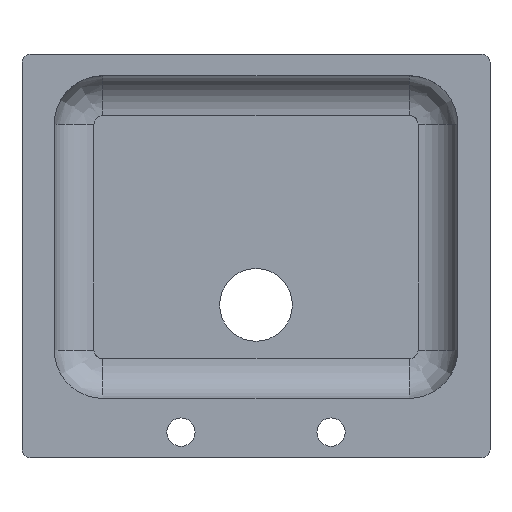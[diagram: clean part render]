
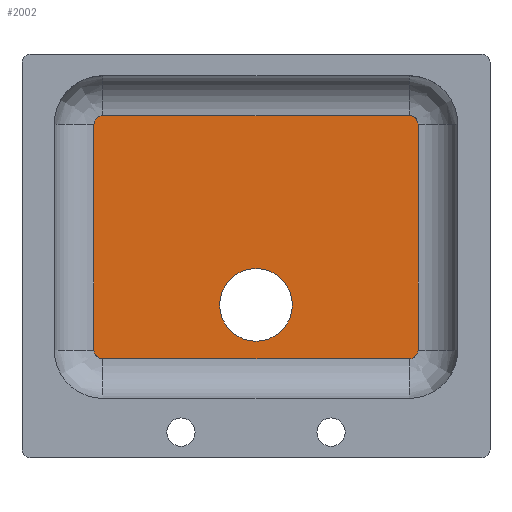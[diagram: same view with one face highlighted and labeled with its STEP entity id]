
A CAD part, top view. The second image highlights one B-rep face of the part: STEP entity #2002.
In plain terms, the highlighted planar face has unit normal (0, 0, 1).
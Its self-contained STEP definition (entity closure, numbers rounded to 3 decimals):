
#1850=CARTESIAN_POINT('Vertex',(45.,-60.3,-192.1)) ;
#1853=CARTESIAN_POINT('Axis2P3D Location',(0.,-60.3,-192.1)) ;
#1857=CARTESIAN_POINT('Vertex',(-45.,-60.3,-192.1)) ;
#1872=CARTESIAN_POINT('Axis2P3D Location',(0.,-60.3,-192.1)) ;
#1915=CARTESIAN_POINT('Axis2P3D Location',(0.,23.5,-192.1)) ;
#1921=CARTESIAN_POINT('Control Point',(190.,-127.3,-192.1)) ;
#1922=CARTESIAN_POINT('Control Point',(193.393,-127.3,-192.1)) ;
#1923=CARTESIAN_POINT('Control Point',(196.789,-125.971,-192.1)) ;
#1924=CARTESIAN_POINT('Control Point',(199.471,-123.289,-192.1)) ;
#1925=CARTESIAN_POINT('Control Point',(200.8,-119.893,-192.1)) ;
#1926=CARTESIAN_POINT('Control Point',(200.8,-116.5,-192.1)) ;
#1927=CARTESIAN_POINT('Vertex',(190.,-127.3,-192.1)) ;
#1929=CARTESIAN_POINT('Vertex',(200.8,-116.5,-192.1)) ;
#1932=CARTESIAN_POINT('Line Origine',(200.8,23.5,-192.1)) ;
#1936=CARTESIAN_POINT('Vertex',(200.8,163.5,-192.1)) ;
#1940=CARTESIAN_POINT('Control Point',(200.8,163.5,-192.1)) ;
#1941=CARTESIAN_POINT('Control Point',(200.8,166.893,-192.1)) ;
#1942=CARTESIAN_POINT('Control Point',(199.471,170.289,-192.1)) ;
#1943=CARTESIAN_POINT('Control Point',(196.789,172.971,-192.1)) ;
#1944=CARTESIAN_POINT('Control Point',(193.393,174.3,-192.1)) ;
#1945=CARTESIAN_POINT('Control Point',(190.,174.3,-192.1)) ;
#1946=CARTESIAN_POINT('Vertex',(190.,174.3,-192.1)) ;
#1949=CARTESIAN_POINT('Line Origine',(0.,174.3,-192.1)) ;
#1953=CARTESIAN_POINT('Vertex',(-190.,174.3,-192.1)) ;
#1957=CARTESIAN_POINT('Control Point',(-190.,174.3,-192.1)) ;
#1958=CARTESIAN_POINT('Control Point',(-193.393,174.3,-192.1)) ;
#1959=CARTESIAN_POINT('Control Point',(-196.789,172.971,-192.1)) ;
#1960=CARTESIAN_POINT('Control Point',(-199.471,170.289,-192.1)) ;
#1961=CARTESIAN_POINT('Control Point',(-200.8,166.893,-192.1)) ;
#1962=CARTESIAN_POINT('Control Point',(-200.8,163.5,-192.1)) ;
#1963=CARTESIAN_POINT('Vertex',(-200.8,163.5,-192.1)) ;
#1966=CARTESIAN_POINT('Line Origine',(-200.8,23.5,-192.1)) ;
#1970=CARTESIAN_POINT('Vertex',(-200.8,-116.5,-192.1)) ;
#1974=CARTESIAN_POINT('Control Point',(-200.8,-116.5,-192.1)) ;
#1975=CARTESIAN_POINT('Control Point',(-200.8,-119.893,-192.1)) ;
#1976=CARTESIAN_POINT('Control Point',(-199.471,-123.289,-192.1)) ;
#1977=CARTESIAN_POINT('Control Point',(-196.789,-125.971,-192.1)) ;
#1978=CARTESIAN_POINT('Control Point',(-193.393,-127.3,-192.1)) ;
#1979=CARTESIAN_POINT('Control Point',(-190.,-127.3,-192.1)) ;
#1980=CARTESIAN_POINT('Vertex',(-190.,-127.3,-192.1)) ;
#1983=CARTESIAN_POINT('Line Origine',(0.,-127.3,-192.1)) ;
#1854=DIRECTION('Axis2P3D Direction',(0.,0.,1.)) ;
#1873=DIRECTION('Axis2P3D Direction',(0.,0.,1.)) ;
#1916=DIRECTION('Axis2P3D Direction',(0.,0.,1.)) ;
#1917=DIRECTION('Axis2P3D XDirection',(1.,0.,0.)) ;
#1933=DIRECTION('Vector Direction',(0.,1.,0.)) ;
#1950=DIRECTION('Vector Direction',(1.,0.,0.)) ;
#1967=DIRECTION('Vector Direction',(0.,1.,0.)) ;
#1984=DIRECTION('Vector Direction',(1.,0.,0.)) ;
#1855=AXIS2_PLACEMENT_3D('Circle Axis2P3D',#1853,#1854,$) ;
#1874=AXIS2_PLACEMENT_3D('Circle Axis2P3D',#1872,#1873,$) ;
#1918=AXIS2_PLACEMENT_3D('Plane Axis2P3D',#1915,#1916,#1917) ;
#1989=ORIENTED_EDGE('',*,*,#1931,.T.) ;
#1990=ORIENTED_EDGE('',*,*,#1938,.F.) ;
#1991=ORIENTED_EDGE('',*,*,#1948,.T.) ;
#1992=ORIENTED_EDGE('',*,*,#1955,.F.) ;
#1993=ORIENTED_EDGE('',*,*,#1965,.T.) ;
#1994=ORIENTED_EDGE('',*,*,#1972,.F.) ;
#1995=ORIENTED_EDGE('',*,*,#1982,.T.) ;
#1996=ORIENTED_EDGE('',*,*,#1987,.F.) ;
#1999=ORIENTED_EDGE('',*,*,#1859,.F.) ;
#2000=ORIENTED_EDGE('',*,*,#1876,.F.) ;
#2001=FACE_BOUND('',#1998,.T.) ;
#1934=VECTOR('Line Direction',#1933,1.) ;
#1951=VECTOR('Line Direction',#1950,1.) ;
#1968=VECTOR('Line Direction',#1967,1.) ;
#1985=VECTOR('Line Direction',#1984,1.) ;
#2002=ADVANCED_FACE('Vasca',(#1997,#2001),#1919,.T.) ;
#1920=B_SPLINE_CURVE_WITH_KNOTS('',5,(#1921,#1922,#1923,#1924,#1925,#1926),.UNSPECIFIED.,.F.,.U.,(6,6),(50.894,67.858),.UNSPECIFIED.) ;
#1939=B_SPLINE_CURVE_WITH_KNOTS('',5,(#1940,#1941,#1942,#1943,#1944,#1945),.UNSPECIFIED.,.F.,.U.,(6,6),(0.,16.965),.UNSPECIFIED.) ;
#1956=B_SPLINE_CURVE_WITH_KNOTS('',5,(#1957,#1958,#1959,#1960,#1961,#1962),.UNSPECIFIED.,.F.,.U.,(6,6),(16.965,33.929),.UNSPECIFIED.) ;
#1973=B_SPLINE_CURVE_WITH_KNOTS('',5,(#1974,#1975,#1976,#1977,#1978,#1979),.UNSPECIFIED.,.F.,.U.,(6,6),(33.929,50.894),.UNSPECIFIED.) ;
#1856=CIRCLE('generated circle',#1855,45.) ;
#1875=CIRCLE('generated circle',#1874,45.) ;
#1859=EDGE_CURVE('',#1851,#1858,#1856,.T.) ;
#1876=EDGE_CURVE('',#1858,#1851,#1875,.T.) ;
#1931=EDGE_CURVE('',#1928,#1930,#1920,.T.) ;
#1938=EDGE_CURVE('',#1937,#1930,#1935,.F.) ;
#1948=EDGE_CURVE('',#1937,#1947,#1939,.T.) ;
#1955=EDGE_CURVE('',#1954,#1947,#1952,.T.) ;
#1965=EDGE_CURVE('',#1954,#1964,#1956,.T.) ;
#1972=EDGE_CURVE('',#1971,#1964,#1969,.T.) ;
#1982=EDGE_CURVE('',#1971,#1981,#1973,.T.) ;
#1987=EDGE_CURVE('',#1928,#1981,#1986,.F.) ;
#1988=EDGE_LOOP('',(#1989,#1990,#1991,#1992,#1993,#1994,#1995,#1996)) ;
#1998=EDGE_LOOP('',(#1999,#2000)) ;
#1997=FACE_OUTER_BOUND('',#1988,.T.) ;
#1935=LINE('Line',#1932,#1934) ;
#1952=LINE('Line',#1949,#1951) ;
#1969=LINE('Line',#1966,#1968) ;
#1986=LINE('Line',#1983,#1985) ;
#1919=PLANE('',#1918) ;
#1851=VERTEX_POINT('',#1850) ;
#1858=VERTEX_POINT('',#1857) ;
#1928=VERTEX_POINT('',#1927) ;
#1930=VERTEX_POINT('',#1929) ;
#1937=VERTEX_POINT('',#1936) ;
#1947=VERTEX_POINT('',#1946) ;
#1954=VERTEX_POINT('',#1953) ;
#1964=VERTEX_POINT('',#1963) ;
#1971=VERTEX_POINT('',#1970) ;
#1981=VERTEX_POINT('',#1980) ;
